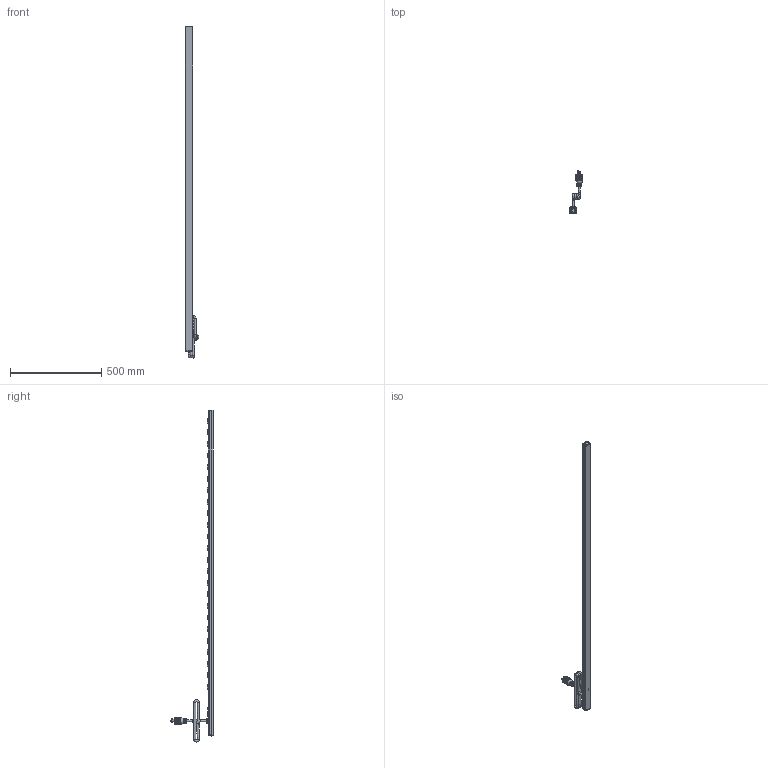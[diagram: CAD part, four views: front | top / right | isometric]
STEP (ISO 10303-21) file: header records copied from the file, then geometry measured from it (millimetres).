
FILE_DESCRIPTION((''),'2;1');
FILE_NAME('E:\Dutton\Manufacturing\drawings\Updated 2009\Vertical Rack Mount Strips\1589 Series\STEP''s\1589T70F124.stp','2010-01-21T08:47:36',('tfoster'),(''),'Autodesk Inventor 2010','Autodesk Inventor 2010','');
FILE_SCHEMA(('AUTOMOTIVE_DESIGN { 1 0 10303 214 1 1 1 1 }'));
Products named in the file (12): 1589T70F124; 70' - 24 outlet top; 70'  bottom; End Cap; End Cap w breaker; Reset Switch; #6 - 0.375 Type A screw; 20 amp Cored; toothwasher; round head 1-way 8-32 x 0.5 screw; 20 Amp Receptacle; Pilot light
Assembly tree (35 placements, depth 2):
  1589T70F124
    End Cap
    End Cap w breaker
    Reset Switch
    #6 - 0.375 Type A screw  x4
    20 amp Cored
    toothwasher
    round head 1-way 8-32 x 0.5 screw
    20 Amp Receptacle  x24
    Pilot light
  70' - 24 outlet top
  70'  bottom
Bounding box: 72.44 x 234.82 x 1822.34 mm (x, y, z)
Volume: 902213.8 mm3; surface area: 736489.3 mm2
Topology: 37 solids, 37 shells, 2236 faces, 5986 edges, 3769 vertices
Faces by surface type: plane 1532, cylinder 448, sphere 102, bspline 97, cone 41, torus 16
Full cylindrical faces by diameter (mm): 1.803 x3, 1.905 x2, 3.175 x12, 3.2 x2, 4.3 x1, 4.826 x2, 7.849 x1, 11 x4, 12.5 x1, 19.05 x2, 22.606 x2, 25.146 x3
Entity records: 31874 total; most frequent: CARTESIAN_POINT 9358, ORIENTED_EDGE 4764, DIRECTION 4323, EDGE_CURVE 2382, VERTEX_POINT 1625, VECTOR 1521, LINE 1521, AXIS2_PLACEMENT_3D 1401
